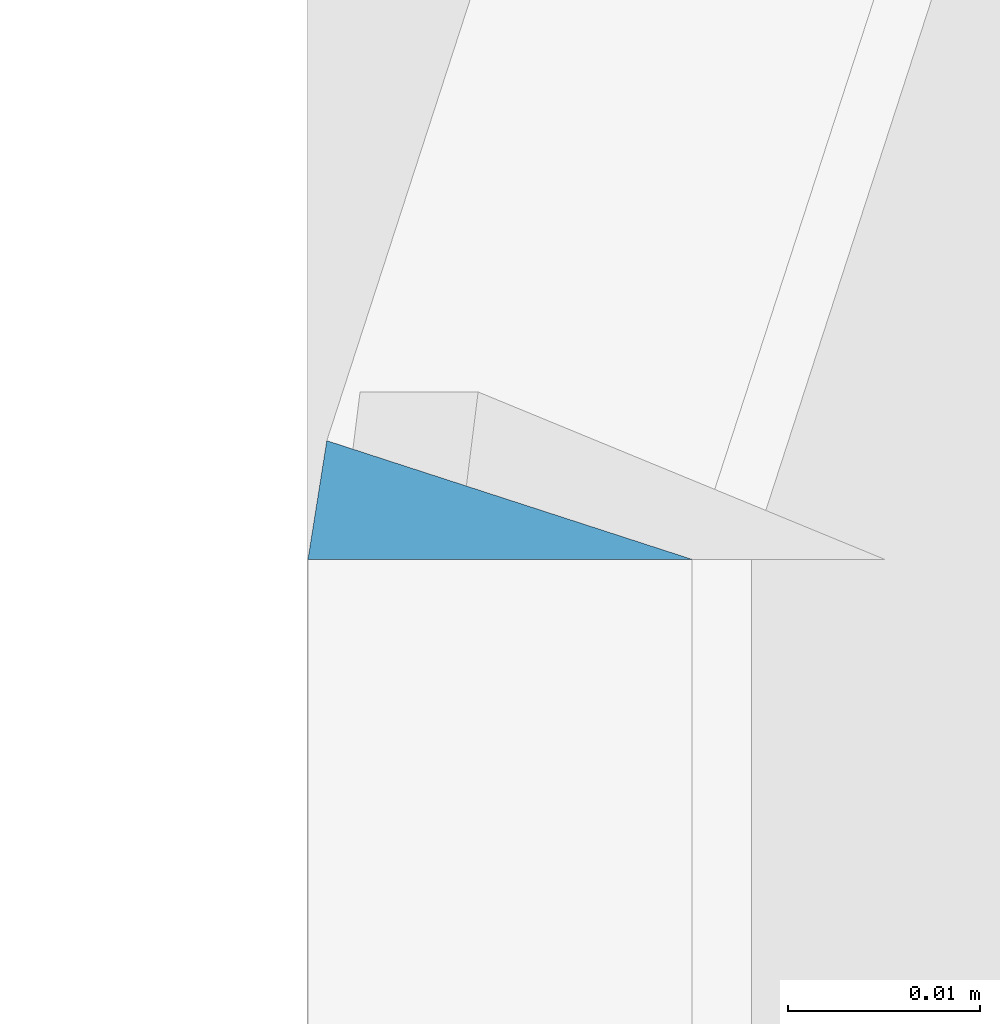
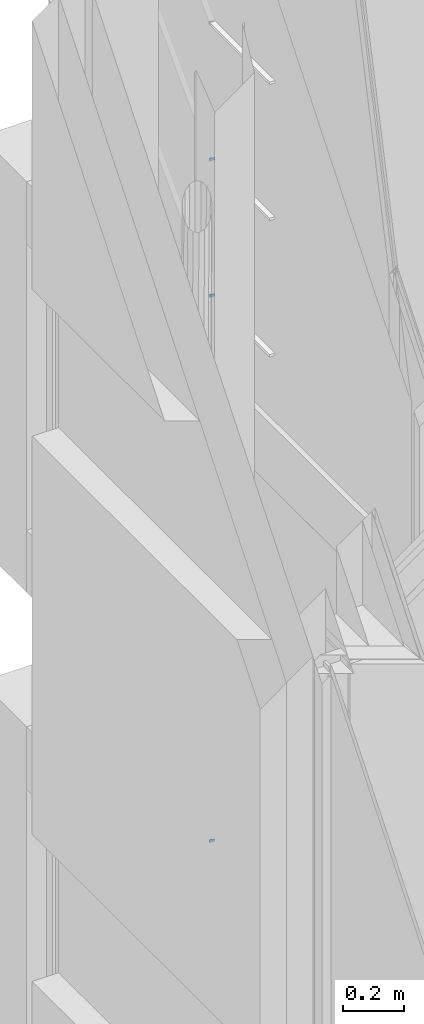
# One storey, part 318 of 583: 3 slabs.
"""IFC2X3 building model written with IfcOpenShell, lengths in metres."""

from ifc_helpers import new_model, entity, si_unit, converted_unit, derived_unit, money_unit, direction, frame, origin_with_axes, place, context, subcontext, project, spatial, faceted_brep, material, type_object, element, save


model = new_model("IFC2X3")

# Units and contexts
model_context = context("Model", 3, precision=1e-05, world=origin_with_axes(), true_north=direction((0.0, 1.0)))
body_context = subcontext(model_context, "Body", "Model", "MODEL_VIEW", scale=1.0)
ifc_project = project(units=[si_unit("LENGTHUNIT", "METRE"), si_unit("AREAUNIT", "SQUARE_METRE"), si_unit("VOLUMEUNIT", "CUBIC_METRE"), si_unit("ABSORBEDDOSEUNIT", "GRAY"), si_unit("AMOUNTOFSUBSTANCEUNIT", "MOLE"), si_unit("DOSEEQUIVALENTUNIT", "SIEVERT"), si_unit("ELECTRICCAPACITANCEUNIT", "FARAD"), si_unit("ELECTRICCHARGEUNIT", "COULOMB"), si_unit("ELECTRICCONDUCTANCEUNIT", "SIEMENS"), si_unit("ELECTRICCURRENTUNIT", "AMPERE"), si_unit("ELECTRICRESISTANCEUNIT", "OHM"), si_unit("ELECTRICVOLTAGEUNIT", "VOLT"), si_unit("ENERGYUNIT", "JOULE"), si_unit("FORCEUNIT", "NEWTON"), si_unit("FREQUENCYUNIT", "HERTZ"), si_unit("ILLUMINANCEUNIT", "LUX"), si_unit("INDUCTANCEUNIT", "HENRY"), si_unit("LUMINOUSFLUXUNIT", "LUMEN"), si_unit("LUMINOUSINTENSITYUNIT", "CANDELA"), si_unit("MAGNETICFLUXDENSITYUNIT", "TESLA"), si_unit("MAGNETICFLUXUNIT", "WEBER"), si_unit("MASSUNIT", "GRAM"), converted_unit("PLANEANGLEUNIT", "degree", entity("IfcReal", 0.0174532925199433), si_unit("PLANEANGLEUNIT", "RADIAN"), dimensions=[0, 0, 0, 0, 0, 0, 0]), si_unit("POWERUNIT", "WATT"), si_unit("PRESSUREUNIT", "PASCAL"), si_unit("RADIOACTIVITYUNIT", "BECQUEREL"), si_unit("SOLIDANGLEUNIT", "STERADIAN"), si_unit("THERMODYNAMICTEMPERATUREUNIT", "KELVIN"), si_unit("TIMEUNIT", "SECOND"), derived_unit("ACCELERATIONUNIT", [(si_unit("LENGTHUNIT", "METRE"), 1), (si_unit("TIMEUNIT", "SECOND"), -2)]), derived_unit("ANGULARVELOCITYUNIT", [(converted_unit("PLANEANGLEUNIT", "degree", entity("IfcReal", 0.0174532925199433), si_unit("PLANEANGLEUNIT", "RADIAN"), dimensions=[0, 0, 0, 0, 0, 0, 0]), 1), (si_unit("TIMEUNIT", "SECOND"), -1)]), derived_unit("CURVATUREUNIT", [(converted_unit("PLANEANGLEUNIT", "degree", entity("IfcReal", 0.0174532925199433), si_unit("PLANEANGLEUNIT", "RADIAN"), dimensions=[0, 0, 0, 0, 0, 0, 0]), 1), (si_unit("LENGTHUNIT", "METRE"), -1)]), derived_unit("DYNAMICVISCOSITYUNIT", [(si_unit("PRESSUREUNIT", "PASCAL"), 1), (si_unit("TIMEUNIT", "SECOND"), 1)]), derived_unit("HEATFLUXDENSITYUNIT", [(si_unit("POWERUNIT", "WATT"), 1), (si_unit("LENGTHUNIT", "METRE"), -2)]), derived_unit("HEATINGVALUEUNIT", [(si_unit("ENERGYUNIT", "JOULE"), 1), (si_unit("MASSUNIT", "GRAM"), -1)]), derived_unit("INTEGERCOUNTRATEUNIT", [(si_unit("TIMEUNIT", "SECOND"), -1)]), derived_unit("IONCONCENTRATIONUNIT", [(si_unit("MASSUNIT", "GRAM"), 1), (si_unit("VOLUMEUNIT", "CUBIC_METRE"), -1)]), derived_unit("ISOTHERMALMOISTURECAPACITYUNIT", [(si_unit("VOLUMEUNIT", "CUBIC_METRE"), 1), (si_unit("MASSUNIT", "GRAM"), -1)]), derived_unit("KINEMATICVISCOSITYUNIT", [(si_unit("AREAUNIT", "SQUARE_METRE"), 1), (si_unit("TIMEUNIT", "SECOND"), -1)]), derived_unit("LINEARFORCEUNIT", [(si_unit("FORCEUNIT", "NEWTON"), 1), (si_unit("LENGTHUNIT", "METRE"), -1)]), derived_unit("LINEARMOMENTUNIT", [(si_unit("FORCEUNIT", "NEWTON"), 1), (si_unit("LENGTHUNIT", "METRE"), -1)]), derived_unit("LINEARSTIFFNESSUNIT", [(si_unit("FORCEUNIT", "NEWTON"), 1), (si_unit("LENGTHUNIT", "METRE"), -1)]), derived_unit("LINEARVELOCITYUNIT", [(si_unit("LENGTHUNIT", "METRE"), 1), (si_unit("TIMEUNIT", "SECOND"), -1)]), derived_unit("LUMINOUSINTENSITYDISTRIBUTIONUNIT", [(si_unit("LUMINOUSINTENSITYUNIT", "CANDELA"), 1), (si_unit("LUMINOUSFLUXUNIT", "LUMEN"), -1)]), derived_unit("MASSDENSITYUNIT", [(si_unit("MASSUNIT", "GRAM"), 1), (si_unit("VOLUMEUNIT", "CUBIC_METRE"), -1)]), derived_unit("MASSFLOWRATEUNIT", [(si_unit("MASSUNIT", "GRAM"), 1), (si_unit("TIMEUNIT", "SECOND"), -1)]), derived_unit("MASSPERLENGTHUNIT", [(si_unit("MASSUNIT", "GRAM"), 1), (si_unit("LENGTHUNIT", "METRE"), -1)]), derived_unit("MODULUSOFELASTICITYUNIT", [(si_unit("FORCEUNIT", "NEWTON"), 1), (si_unit("AREAUNIT", "SQUARE_METRE"), -1)]), derived_unit("MODULUSOFLINEARSUBGRADEREACTIONUNIT", [(si_unit("FORCEUNIT", "NEWTON"), 1), (si_unit("LENGTHUNIT", "METRE"), -2)]), derived_unit("MODULUSOFROTATIONALSUBGRADEREACTIONUNIT", [(si_unit("FORCEUNIT", "NEWTON"), 1), (si_unit("LENGTHUNIT", "METRE"), 1)]), derived_unit("MODULUSOFSUBGRADEREACTIONUNIT", [(si_unit("FORCEUNIT", "NEWTON"), 1), (si_unit("VOLUMEUNIT", "CUBIC_METRE"), -1)]), derived_unit("MOISTUREDIFFUSIVITYUNIT", [(si_unit("VOLUMEUNIT", "CUBIC_METRE"), 1), (si_unit("TIMEUNIT", "SECOND"), -1)]), derived_unit("MOLECULARWEIGHTUNIT", [(si_unit("MASSUNIT", "GRAM"), 1), (si_unit("AMOUNTOFSUBSTANCEUNIT", "MOLE"), -1)]), derived_unit("PLANARFORCEUNIT", [(si_unit("FORCEUNIT", "NEWTON"), 1), (si_unit("LENGTHUNIT", "METRE"), -2)]), derived_unit("ROTATIONALFREQUENCYUNIT", [(si_unit("TIMEUNIT", "SECOND"), -1)]), derived_unit("ROTATIONALMASSUNIT", [(si_unit("MASSUNIT", "GRAM"), 1), (si_unit("LENGTHUNIT", "METRE"), 2)]), derived_unit("ROTATIONALSTIFFNESSUNIT", [(si_unit("FORCEUNIT", "NEWTON"), 1), (si_unit("LENGTHUNIT", "METRE"), 1), (converted_unit("PLANEANGLEUNIT", "degree", entity("IfcReal", 0.0174532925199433), si_unit("PLANEANGLEUNIT", "RADIAN"), dimensions=[0, 0, 0, 0, 0, 0, 0]), -1)]), derived_unit("SECTIONAREAINTEGRALUNIT", [(si_unit("LENGTHUNIT", "METRE"), 5)]), derived_unit("SECTIONMODULUSUNIT", [(si_unit("LENGTHUNIT", "METRE"), 3)]), derived_unit("SHEARMODULUSUNIT", [(si_unit("FORCEUNIT", "NEWTON"), 1), (si_unit("AREAUNIT", "SQUARE_METRE"), -1)]), derived_unit("SOUNDPOWERUNIT", [(si_unit("ENERGYUNIT", "JOULE"), 1), (si_unit("TIMEUNIT", "SECOND"), -1)]), derived_unit("SPECIFICHEATCAPACITYUNIT", [(si_unit("FORCEUNIT", "NEWTON"), 1), (si_unit("MASSUNIT", "GRAM"), -1), (si_unit("THERMODYNAMICTEMPERATUREUNIT", "KELVIN"), -1)]), derived_unit("TEMPERATUREGRADIENTUNIT", [(si_unit("THERMODYNAMICTEMPERATUREUNIT", "KELVIN"), 1), (si_unit("LENGTHUNIT", "METRE"), -1)]), derived_unit("THERMALADMITTANCEUNIT", [(si_unit("POWERUNIT", "WATT"), 1), (si_unit("AREAUNIT", "SQUARE_METRE"), -1), (si_unit("THERMODYNAMICTEMPERATUREUNIT", "KELVIN"), -1)]), derived_unit("THERMALCONDUCTANCEUNIT", [(si_unit("POWERUNIT", "WATT"), 1), (si_unit("LENGTHUNIT", "METRE"), -1), (si_unit("THERMODYNAMICTEMPERATUREUNIT", "KELVIN"), -1)]), derived_unit("THERMALEXPANSIONCOEFFICIENTUNIT", [(si_unit("THERMODYNAMICTEMPERATUREUNIT", "KELVIN"), -1)]), derived_unit("THERMALRESISTANCEUNIT", [(si_unit("AREAUNIT", "SQUARE_METRE"), 1), (si_unit("POWERUNIT", "WATT"), -1)]), derived_unit("THERMALTRANSMITTANCEUNIT", [(si_unit("POWERUNIT", "WATT"), 1), (si_unit("AREAUNIT", "SQUARE_METRE"), -1), (si_unit("THERMODYNAMICTEMPERATUREUNIT", "KELVIN"), -1)]), derived_unit("TORQUEUNIT", [(si_unit("FORCEUNIT", "NEWTON"), 1), (si_unit("LENGTHUNIT", "METRE"), 1)]), derived_unit("VAPORPERMEABILITYUNIT", [(si_unit("MASSUNIT", "GRAM"), 1), (si_unit("TIMEUNIT", "SECOND"), -1)]), derived_unit("VOLUMETRICFLOWRATEUNIT", [(si_unit("VOLUMEUNIT", "CUBIC_METRE"), 1), (si_unit("TIMEUNIT", "SECOND"), -1)]), derived_unit("WARPINGCONSTANTUNIT", [(si_unit("LENGTHUNIT", "METRE"), 6)]), derived_unit("WARPINGMOMENTUNIT", [(si_unit("FORCEUNIT", "NEWTON"), 1), (si_unit("LENGTHUNIT", "METRE"), 2)]), money_unit("GBP")], contexts=[model_context])

# Site, building, storey
site_placement = place(None, origin_with_axes())
site = spatial("IfcSite", under=ifc_project, at=site_placement, Name="Site", CompositionType="ELEMENT")
building_placement = place(site_placement, origin_with_axes())
building = spatial("IfcBuilding", under=site, at=building_placement, Name="Building01", CompositionType="ELEMENT")
storey_placement = place(building_placement, frame((0.0, 0.0, 20.78), z_axis=(0.0, 0.0, 1.0), x_axis=(1.0, 0.0, 0.0)))
storey = spatial("IfcBuildingStorey", under=building, at=storey_placement, Name="RL", CompositionType="ELEMENT", Elevation=20.78)

# Slabs
ifc_material = material(Name="A_BSUK_Roofs")
slab_type = type_object("IfcSlabType", Name="A-FloorsSlabs A_BSUK_Slabs", PredefinedType="FLOOR")
for number, where, z_axis, x_axis, name in (
    (1, (0.500979, 16.280608, 1.475024), (0.0, 1.0, 0.0), (0.0, 0.0, 1.0), "A-FloorsSlabs A_BSUK_Slabs"),
    (2, (0.500979, 16.280608, 3.665024), (0.0, 1.0, 0.0), (0.0, 0.0, 1.0), "A-FloorsSlabs A_BSUK_Slabs"),
    (3, (0.500979, 16.280608, 4.212524), (0.0, 1.0, 0.0), (0.0, 0.0, 1.0), "A-FloorsSlabs A_BSUK_Slabs"),
):
    element("IfcSlab", number, at=place(storey_placement, frame(where, z_axis=z_axis, x_axis=x_axis)), inside=storey, type_object=slab_type, material=ifc_material, Name=name, ObjectType="A-FloorsSlabs A_BSUK_Slabs", context=body_context, shape_type="Brep", body=[
        faceted_brep([(0.0, -0.000979, -0.00618), (0.01, -0.000979, -0.00618), (0.01, 0.0, 0.0), (0.0, 0.0, 0.0), (0.0, 0.019021, -0.00618), (0.01, 0.019021, -0.00618)], [[[0, 1, 2, 3]], [[4, 5, 1, 0]], [[3, 2, 5, 4]], [[1, 5, 2]], [[3, 4, 0]]]),
    ])

save(model, "model.ifc")
